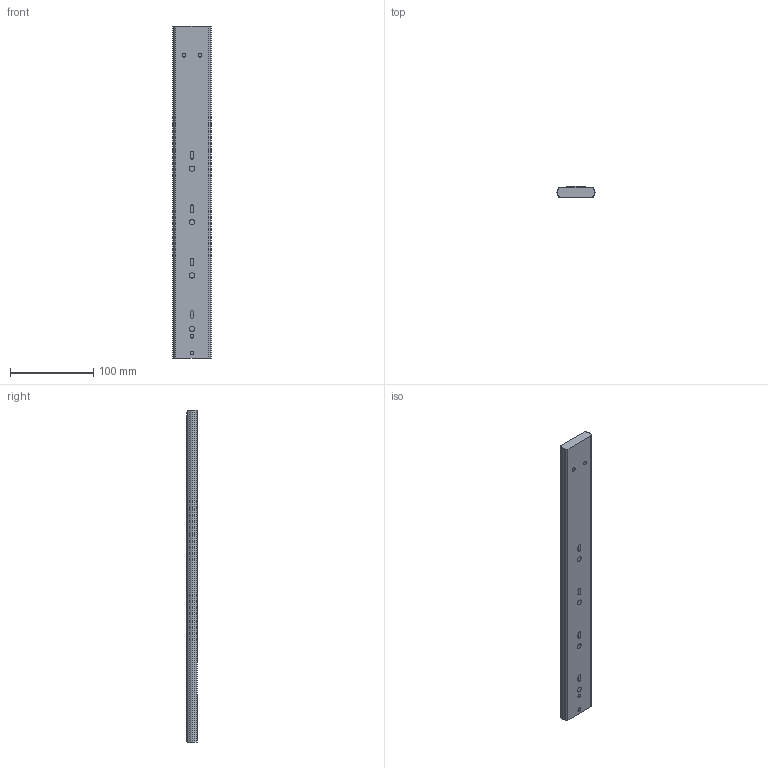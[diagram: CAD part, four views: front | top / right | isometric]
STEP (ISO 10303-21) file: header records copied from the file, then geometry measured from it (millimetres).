
FILE_DESCRIPTION (( 'STEP AP203' ), '1' );
FILE_NAME ('4587116H(¹Ø).STEP', '2020-02-13T09:03:00', ( 'ZZG' ), ( 'Microsoft' ), 'SwSTEP 2.0', 'SolidWorks 2012', '' );
FILE_SCHEMA (( 'CONFIG_CONTROL_DESIGN' ));
Length unit declared in the file: millimetre
Products named in the file (1): 4587116H(壽)
Bounding box: 45.57 x 12.7 x 398 mm (x, y, z)
Volume: 208504 mm3; surface area: 44030.4 mm2
Topology: 1 solids, 1 shells, 190 faces, 498 edges, 330 vertices
Faces by surface type: cylinder 99, plane 81, cone 6, bspline 4
Entity records: 6143 total; most frequent: CARTESIAN_POINT 1263, DIRECTION 1030, ORIENTED_EDGE 996, EDGE_CURVE 498, AXIS2_PLACEMENT_3D 379, VERTEX_POINT 330, LINE 272, VECTOR 272
